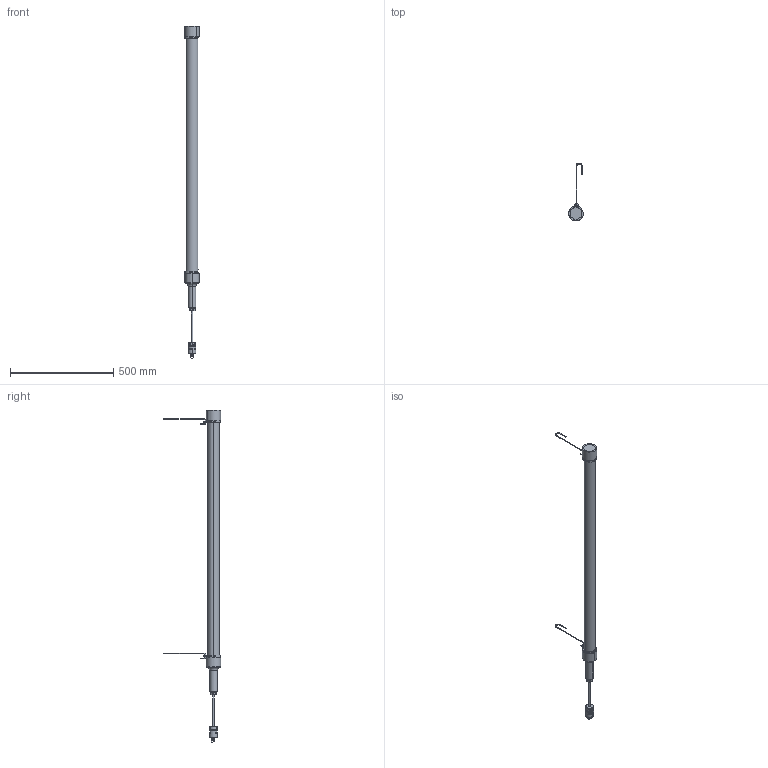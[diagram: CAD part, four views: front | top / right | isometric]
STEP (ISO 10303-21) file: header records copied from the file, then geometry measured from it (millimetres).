
FILE_DESCRIPTION (( 'STEP AP214' ), '1' );
FILE_NAME ('FTL-5-LED.STEP', '2015-07-08T19:29:51', ( '' ), ( '' ), 'SwSTEP 2.0', 'SolidWorks 2015', '' );
FILE_SCHEMA (( 'AUTOMOTIVE_DESIGN' ));
Length unit declared in the file: inch
Products named in the file (12): FTL Handle_Cap; FTL-5 Tube; FTL-5-LED; FTL Hook; Clamp; Wall Plug; pan cross head_ai_CR-PHMS 0.112-40x0.75x0.75-S; binding head screw_ai_CR-BHMS 0.112-48x0.125x0.125-N; FTL Cord; FTL CGB; FTL Handle
Assembly tree (16 placements, depth 3):
  FTL-5-LED
    FTL-5 Tube
    FTL Handle_Cap
    FTL Handle
    FTL CGB
    FTL Cord
    Wall Plug
      Wall Plug
      binding head screw_ai_CR-BHMS 0.112-48x0.125x0.125-N  x3
      pan cross head_ai_CR-PHMS 0.112-40x0.75x0.75-S  x2
    Clamp  x2
    FTL Hook  x2
Bounding box: 69.95 x 277.93 x 1605.74 mm (x, y, z)
Volume: 3531172.6 mm3; surface area: 343612.9 mm2
Topology: 19 solids, 19 shells, 753 faces, 1856 edges, 1170 vertices
Faces by surface type: cylinder 251, cone 250, plane 204, torus 34, sphere 10, bspline 4
Entity records: 18236 total; most frequent: CARTESIAN_POINT 4264, DIRECTION 2732, ORIENTED_EDGE 2312, EDGE_CURVE 1156, AXIS2_PLACEMENT_3D 1106, VERTEX_POINT 734, CIRCLE 614, VECTOR 520
